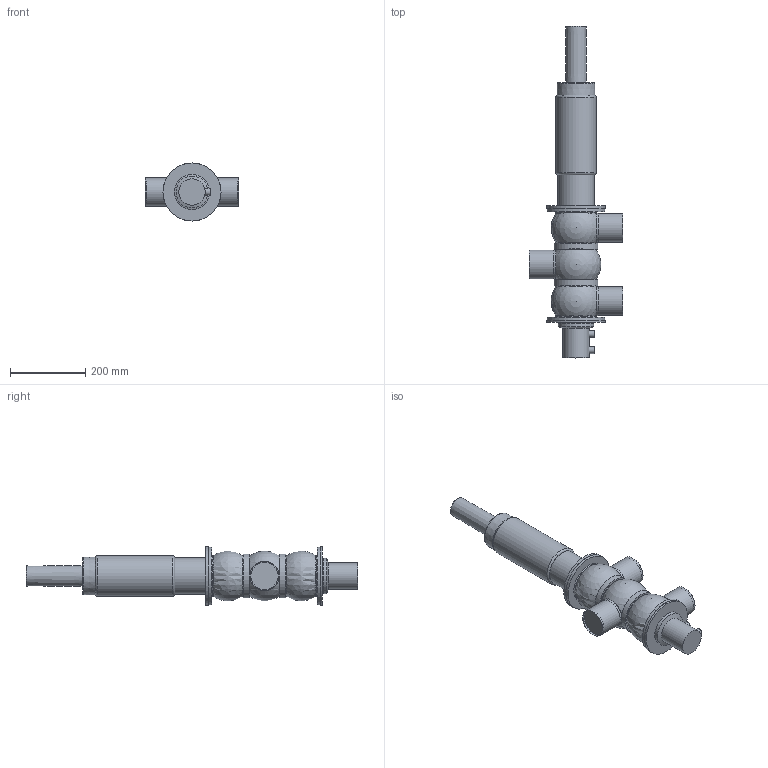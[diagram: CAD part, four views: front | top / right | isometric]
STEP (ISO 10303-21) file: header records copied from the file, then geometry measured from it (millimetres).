
FILE_DESCRIPTION(/* description */ ('Creo Elements/Direct Modeling STEP Export'),/* implementation_level */ '2;1');
FILE_NAME(/* name */ 'O:\Benutzer\Trimpop\DU4 SL\Makros\DU4 SL_VSM_stp\DU45(1-7-9)-3inch SL_VSM.stp',/* time_stamp */ '2021-10-01T14:17:51+02:00',/* author */ ('KERAMN'),/* organization */ (''),/* preprocessor_version */ 'ST-DEVELOPER v18.1',/* originating_system */ 'Autodesk Inventor 2020',/* authorisation */ '');
FILE_SCHEMA (('AUTOMOTIVE_DESIGN { 1 0 10303 214 3 1 1 }'));
Length unit declared in the file: millimetre
Products named in the file (6): DU45(1-7-9)-3inch SL_VSM; actuator_D4SL-100_yoke; DU45-3T(1-7-9)_Shrinkwrap_1; lid housing DU4-62 simplified; drain_pipe_62; D4_Prox._holder
Assembly tree (5 placements, depth 2):
  DU45(1-7-9)-3inch SL_VSM
    actuator_D4SL-100_yoke
    DU45-3T(1-7-9)_Shrinkwrap_1
    lid housing DU4-62 simplified
    drain_pipe_62
    D4_Prox._holder
Bounding box: 250 x 885.05 x 155 mm (x, y, z)
Volume: 8382598.9 mm3; surface area: 517711 mm2
Topology: 5 solids, 5 shells, 87 faces, 196 edges, 139 vertices
Faces by surface type: plane 38, cylinder 29, torus 13, cone 4, sphere 3
Full cylindrical faces by diameter (mm): 18 x2, 60 x1, 68 x1, 70 x1, 72.9 x3, 76.1 x3, 82.9 x1, 85 x1, 85.1 x1, 94 x1, 96 x1, 107 x1, 107.2 x6, 117 x2, 155 x4
Entity records: 2905 total; most frequent: CARTESIAN_POINT 592, DIRECTION 533, ORIENTED_EDGE 380, AXIS2_PLACEMENT_3D 249, EDGE_CURVE 190, CIRCLE 150, VERTEX_POINT 139, EDGE_LOOP 113
